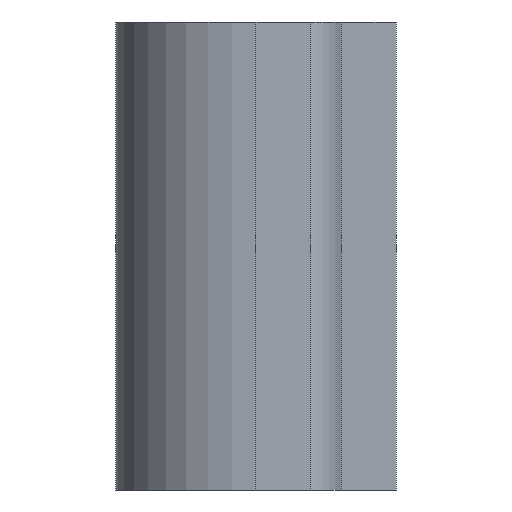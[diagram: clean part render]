
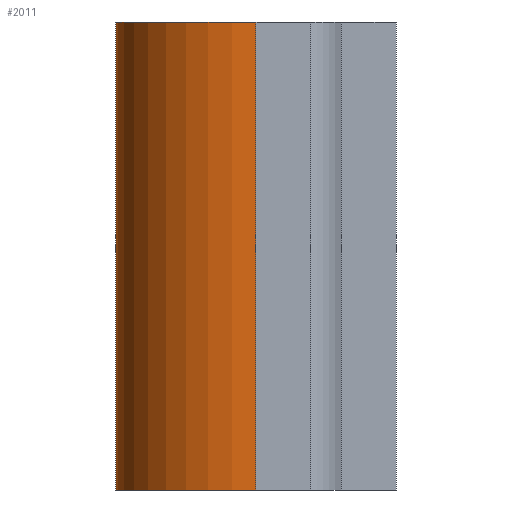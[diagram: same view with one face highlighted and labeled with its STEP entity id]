
A CAD part, left-side view. The second image highlights one B-rep face of the part: STEP entity #2011.
In plain terms, the highlighted cylindrical face has radius 30 mm (diameter 60 mm), a partial arc.
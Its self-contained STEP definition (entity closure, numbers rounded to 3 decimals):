
#151=FACE_OUTER_BOUND('',#261,.T.);
#261=EDGE_LOOP('',(#1649,#1650,#1651,#1652));
#448=LINE('',#3283,#659);
#449=LINE('',#3287,#660);
#659=VECTOR('',#2678,100.);
#660=VECTOR('',#2683,100.);
#805=CIRCLE('',#2188,30.);
#813=CIRCLE('',#2213,30.);
#923=VERTEX_POINT('',#3141);
#924=VERTEX_POINT('',#3143);
#977=VERTEX_POINT('',#3281);
#978=VERTEX_POINT('',#3285);
#1164=EDGE_CURVE('',#924,#923,#805,.T.);
#1234=EDGE_CURVE('',#923,#977,#448,.T.);
#1235=EDGE_CURVE('',#977,#978,#813,.T.);
#1236=EDGE_CURVE('',#924,#978,#449,.T.);
#1649=ORIENTED_EDGE('',*,*,#1235,.T.);
#1650=ORIENTED_EDGE('',*,*,#1236,.F.);
#1651=ORIENTED_EDGE('',*,*,#1164,.T.);
#1652=ORIENTED_EDGE('',*,*,#1234,.T.);
#1945=CYLINDRICAL_SURFACE('',#2212,30.);
#2011=ADVANCED_FACE('',(#151),#1945,.T.);
#2188=AXIS2_PLACEMENT_3D('',#3144,#2568,#2569);
#2212=AXIS2_PLACEMENT_3D('',#3284,#2679,#2680);
#2213=AXIS2_PLACEMENT_3D('',#3286,#2681,#2682);
#2568=DIRECTION('center_axis',(0.,0.,1.));
#2569=DIRECTION('ref_axis',(0.,1.,0.));
#2678=DIRECTION('',(0.,0.,1.));
#2679=DIRECTION('center_axis',(0.,0.,1.));
#2680=DIRECTION('ref_axis',(0.,1.,0.));
#2681=DIRECTION('center_axis',(0.,0.,-1.));
#2682=DIRECTION('ref_axis',(0.,1.,0.));
#2683=DIRECTION('',(0.,0.,1.));
#3141=CARTESIAN_POINT('',(-30.,0.,-50.));
#3143=CARTESIAN_POINT('',(0.,30.,-50.));
#3144=CARTESIAN_POINT('Origin',(0.,0.,
-50.));
#3281=CARTESIAN_POINT('',(-30.,0.,50.));
#3283=CARTESIAN_POINT('',(-30.,0.,-50.));
#3284=CARTESIAN_POINT('Origin',(0.,0.,
0.));
#3285=CARTESIAN_POINT('',(0.,30.,50.));
#3286=CARTESIAN_POINT('Origin',(0.,0.,
50.));
#3287=CARTESIAN_POINT('',(0.,30.,-50.));
